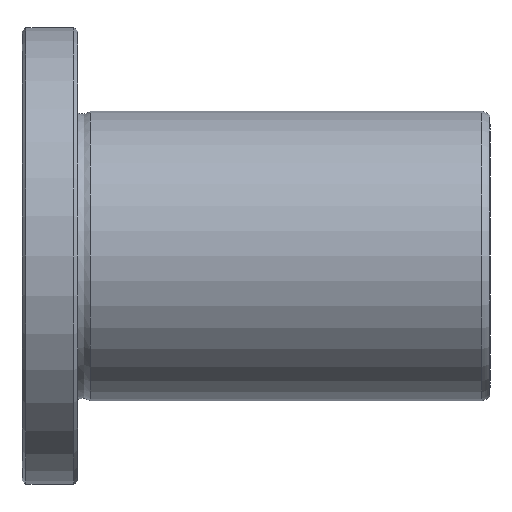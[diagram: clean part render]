
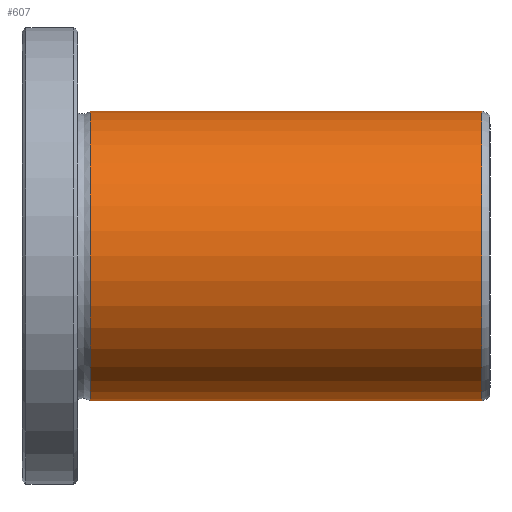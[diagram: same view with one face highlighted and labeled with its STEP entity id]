
A CAD part, front view. The second image highlights one B-rep face of the part: STEP entity #607.
In plain terms, the highlighted cylindrical face has radius 26 mm (diameter 52 mm), a full revolution.
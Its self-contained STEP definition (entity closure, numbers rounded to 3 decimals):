
#573=CARTESIAN_POINT('',(82.502,0.0,26.));
#574=VERTEX_POINT('',#573);
#575=CARTESIAN_POINT('',(82.502,0.0,0.0));
#576=DIRECTION('',(-1.0,0.0,0.0));
#577=DIRECTION('',(0.0,0.0,1.0));
#578=AXIS2_PLACEMENT_3D('',#575,#576,#577);
#579=CIRCLE('',#578,26.);
#580=EDGE_CURVE('',#574,#574,#579,.T.);
#588=CARTESIAN_POINT('',(47.362,0.0,0.0));
#589=DIRECTION('',(-1.0,0.0,0.0));
#590=DIRECTION('',(0.0,0.0,1.0));
#591=AXIS2_PLACEMENT_3D('',#588,#589,#590);
#592=CYLINDRICAL_SURFACE('',#591,26.);
#593=CARTESIAN_POINT('',(12.223,0.0,26.0));
#594=VERTEX_POINT('',#593);
#595=CARTESIAN_POINT('',(12.223,0.0,0.0));
#596=DIRECTION('',(-1.0,0.0,0.0));
#597=DIRECTION('',(0.0,0.0,1.0));
#598=AXIS2_PLACEMENT_3D('',#595,#596,#597);
#599=CIRCLE('',#598,26.0);
#600=EDGE_CURVE('',#594,#594,#599,.T.);
#601=ORIENTED_EDGE('',*,*,#600,.F.);
#602=EDGE_LOOP('',(#601));
#603=FACE_OUTER_BOUND('',#602,.T.);
#604=ORIENTED_EDGE('',*,*,#580,.T.);
#605=EDGE_LOOP('',(#604));
#606=FACE_BOUND('',#605,.T.);
#607=ADVANCED_FACE('',(#603,#606),#592,.T.);
